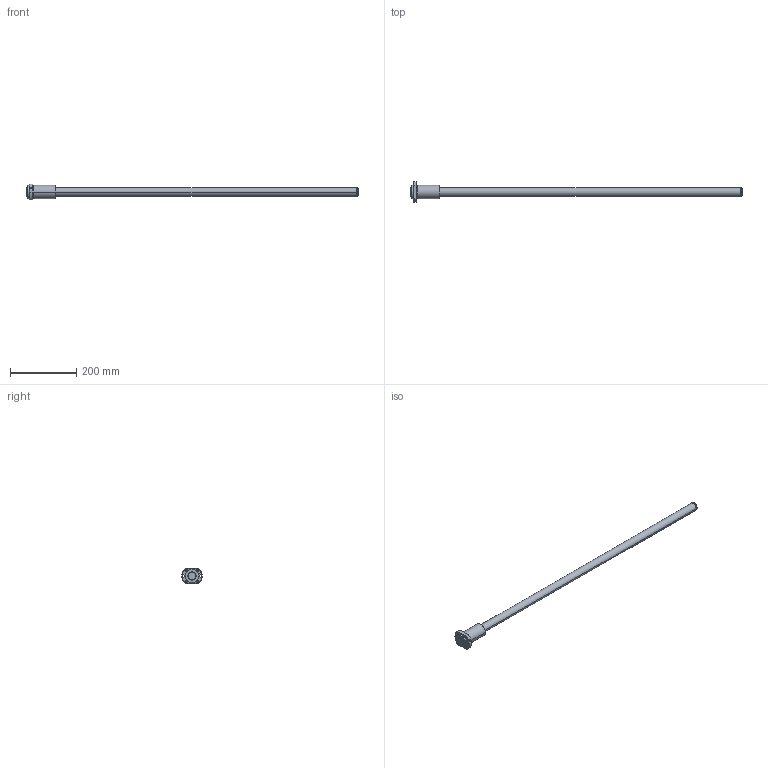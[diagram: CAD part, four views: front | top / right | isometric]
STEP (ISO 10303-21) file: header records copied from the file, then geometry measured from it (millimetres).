
FILE_DESCRIPTION( ( '' ), '1' );
FILE_NAME( 'C:/Users/v3-771-32344/Desktop/EBB STEP/EBB 2510-4 RRNone+1000L C7(905070)-ebb3.stp', '2015-08-27T13:37:31', ( '' ), ( '' ), ' ', ' ', ' ' );
FILE_SCHEMA( ( 'CONFIG_CONTROL_DESIGN' ) );
Length unit declared in the file: millimetre
Products named in the file (2): 1; 2
Bounding box: 1000 x 62 x 48 mm (x, y, z)
Volume: 566626 mm3; surface area: 103501.6 mm2
Topology: 2 solids, 2 shells, 67 faces, 155 edges, 99 vertices
Faces by surface type: cylinder 36, cone 18, plane 13
Entity records: 2167 total; most frequent: CARTESIAN_POINT 473, DIRECTION 366, ORIENTED_EDGE 310, AXIS2_PLACEMENT_3D 155, EDGE_CURVE 155, VERTEX_POINT 99, EDGE_LOOP 90, CIRCLE 86
